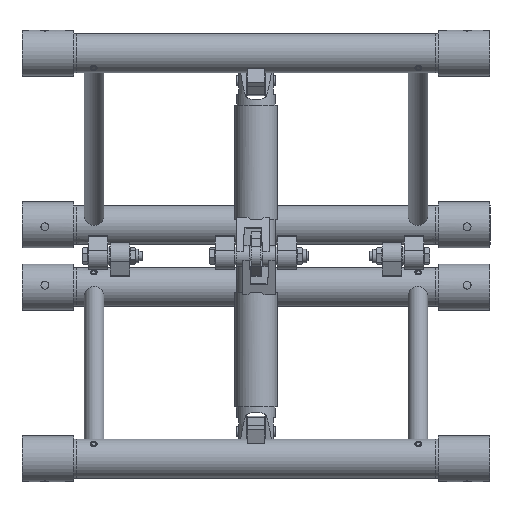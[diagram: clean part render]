
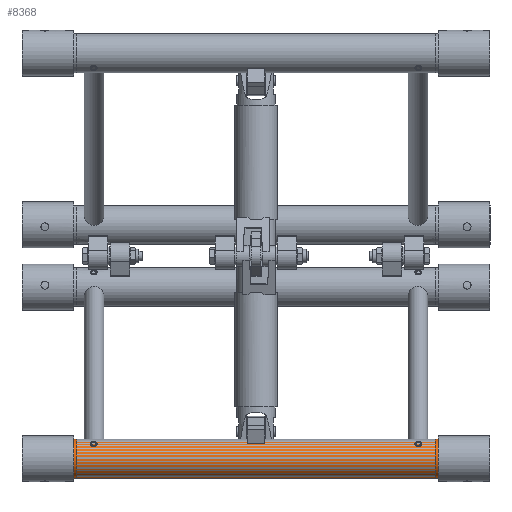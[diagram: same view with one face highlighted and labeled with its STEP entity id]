
A CAD part, front view. The second image highlights one B-rep face of the part: STEP entity #8368.
In plain terms, the highlighted cylindrical face has radius 25 mm (diameter 50 mm), a full revolution.
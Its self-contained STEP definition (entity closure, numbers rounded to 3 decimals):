
#1841=FACE_BOUND('',#3021,.T.);
#2323=FACE_OUTER_BOUND('',#3020,.T.);
#3020=EDGE_LOOP('',(#7271));
#3021=EDGE_LOOP('',(#7272));
#3340=CIRCLE('',#9238,25.);
#3341=CIRCLE('',#9239,25.);
#4096=VERTEX_POINT('',#15553);
#4097=VERTEX_POINT('',#15555);
#5157=EDGE_CURVE('',#4096,#4096,#3340,.T.);
#5158=EDGE_CURVE('',#4097,#4097,#3341,.T.);
#7271=ORIENTED_EDGE('',*,*,#5157,.F.);
#7272=ORIENTED_EDGE('',*,*,#5158,.F.);
#7402=CYLINDRICAL_SURFACE('',#9237,25.);
#8368=ADVANCED_FACE('',(#2323,#1841),#7402,.F.);
#9237=AXIS2_PLACEMENT_3D('',#15552,#11444,#11445);
#9238=AXIS2_PLACEMENT_3D('',#15554,#11446,#11447);
#9239=AXIS2_PLACEMENT_3D('',#15556,#11448,#11449);
#11444=DIRECTION('center_axis',(1.,0.,0.));
#11445=DIRECTION('ref_axis',(0.,0.906,0.424));
#11446=DIRECTION('center_axis',(-1.,0.,0.));
#11447=DIRECTION('ref_axis',(0.,0.906,0.424));
#11448=DIRECTION('center_axis',(1.,0.,0.));
#11449=DIRECTION('ref_axis',(0.,0.906,0.424));
#15552=CARTESIAN_POINT('Origin',(0.,0.,
-260.));
#15553=CARTESIAN_POINT('',(600.,22.642,-249.401));
#15554=CARTESIAN_POINT('Origin',(600.,0.,-260.));
#15555=CARTESIAN_POINT('',(0.,22.642,-249.401));
#15556=CARTESIAN_POINT('Origin',(0.,0.,
-260.));
